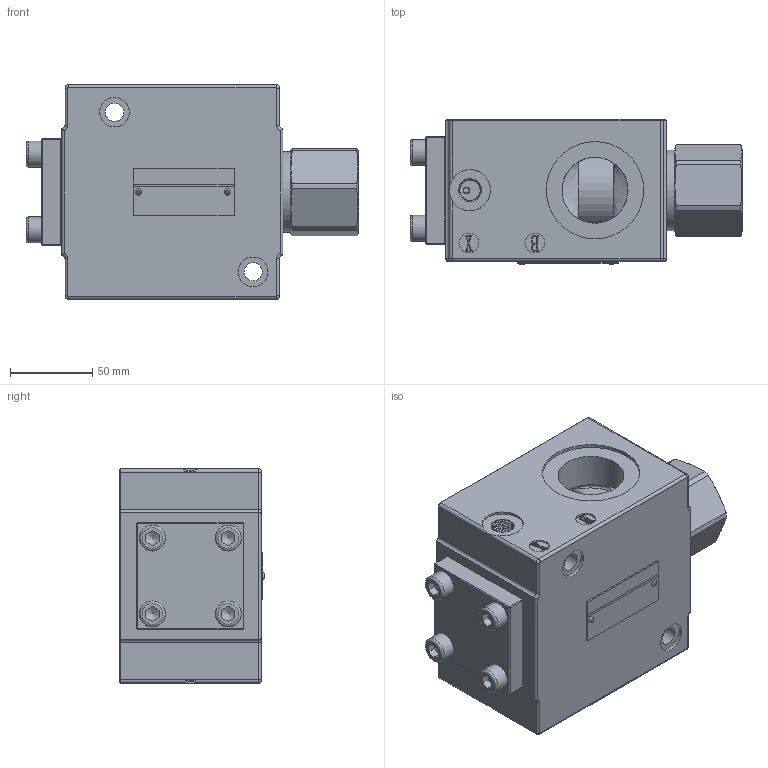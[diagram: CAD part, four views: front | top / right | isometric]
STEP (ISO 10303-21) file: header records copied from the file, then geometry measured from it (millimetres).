
FILE_DESCRIPTION(/* description */ (''),/* implementation_level */ '2;1');
FILE_NAME(/* name */ 'SL25G-3(4)-4XJ液控单向阀（管式）.prt.stp',/* time_stamp */ '2022-03-30T19:18:57+08:00',/* author */ (''),/* organization */ (''),/* preprocessor_version */ 'ST-DEVELOPER v16.7',/* originating_system */ 'SIEMENS PLM Software NX 12.0',/* authorisation */ '');
FILE_SCHEMA (('AUTOMOTIVE_DESIGN { 1 0 10303 214 3 1 1 1 }'));
Products named in the file (1): SL25G-3(4)-4XJ液控单向阀（管式）
Bounding box: 201.24 x 88 x 130 mm (x, y, z)
Volume: 1516571 mm3; surface area: 158530.6 mm2
Topology: 10 solids, 10 shells, 684 faces, 1791 edges, 1153 vertices
Faces by surface type: plane 417, cylinder 157, bspline 48, cone 45, torus 15, extrusion 2
Full cylindrical faces by diameter (mm): 1.8 x6, 3.4 x8, 8.5 x44, 10.8 x4, 11 x2, 12 x4, 12.5 x8, 15.73 x4, 17 x1, 18 x2, 25 x2, 40 x2, 44.8 x2, 46 x1, 48.4 x1, 49 x2, 59 x2
Entity records: 59824 total; most frequent: CARTESIAN_POINT 43367, ORIENTED_EDGE 2996, DIRECTION 2635, EDGE_CURVE 1498, VERTEX_POINT 1011, VECTOR 987, LINE 985, AXIS2_PLACEMENT_3D 824
